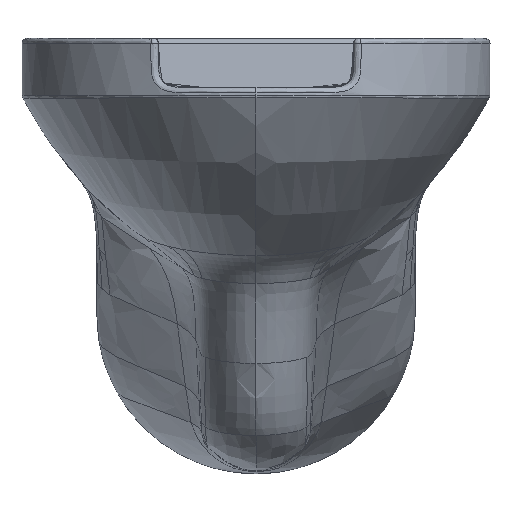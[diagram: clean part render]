
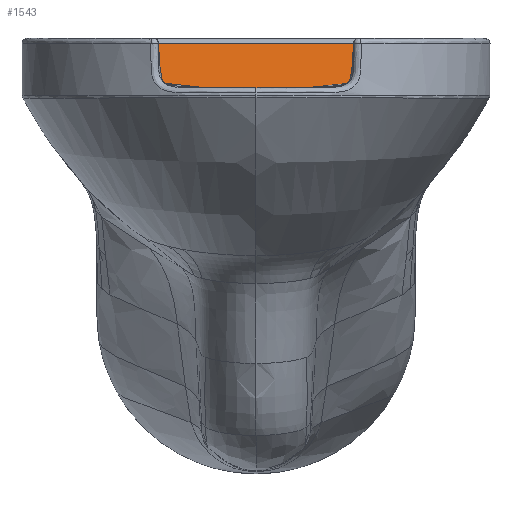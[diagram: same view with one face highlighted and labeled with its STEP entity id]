
A CAD part, front view. The second image highlights one B-rep face of the part: STEP entity #1543.
In plain terms, the highlighted planar face has unit normal (0, -0.985, 0.174).
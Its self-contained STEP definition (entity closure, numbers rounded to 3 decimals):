
#312 = PLANE ( 'NONE',  #1734 ) ;
#852 = B_SPLINE_CURVE_WITH_KNOTS ( 'NONE', 3,
 ( #33536, #32575, #32733, #32812, #32854, #32968, #33081, #33199, #33313, #33423 ),
 .UNSPECIFIED., .F., .F.,
 ( 4, 3, 3, 4 ),
 ( 0.004, 0.039, 0.063, 0.085 ),
 .UNSPECIFIED. ) ;
#1524 = CARTESIAN_POINT ( 'NONE',  ( 102.062, -331.496, 269.826 ) ) ;
#1543 = ADVANCED_FACE ( 'NONE', ( #19821 ), #312, .T. ) ;
#1733 = DIRECTION ( 'NONE',  ( 1., 0., 0. ) ) ;
#1734 = AXIS2_PLACEMENT_3D ( 'NONE', #13074, #29267, #29376 ) ;
#1864 = EDGE_CURVE ( 'NONE', #15996, #7212, #852, .T. ) ;
#4143 = CARTESIAN_POINT ( 'NONE',  ( 107.03, -329.004, 283.96 ) ) ;
#4725 = CARTESIAN_POINT ( 'NONE',  ( 123.544, -320.729, 330.891 ) ) ;
#5518 = VERTEX_POINT ( 'NONE', #4725 ) ;
#6798 = CARTESIAN_POINT ( 'NONE',  ( 112.168, -326.428, 298.569 ) ) ;
#7212 = VERTEX_POINT ( 'NONE', #24093 ) ;
#8529 = CARTESIAN_POINT ( 'NONE',  ( 97.263, -333.904, 256.168 ) ) ;
#9211 = CARTESIAN_POINT ( 'NONE',  ( 99.662, -332.7, 262.998 ) ) ;
#9447 = CARTESIAN_POINT ( 'NONE',  ( 119.75, -322.628, 320.118 ) ) ;
#9641 = CARTESIAN_POINT ( 'NONE',  ( -123.544, -320.729, 330.891 ) ) ;
#9857 = VECTOR ( 'NONE', #1733, 1000. ) ;
#10335 = LINE ( 'NONE', #33901, #9857 ) ;
#10733 = CARTESIAN_POINT ( 'NONE',  ( 0., -320.729, 330.891 ) ) ;
#12874 = B_SPLINE_CURVE_WITH_KNOTS ( 'NONE', 3,
 ( #8529, #9211, #1524, #19984, #4143, #22671, #6798, #25317, #9447, #27963 ),
 .UNSPECIFIED., .F., .F.,
 ( 4, 3, 3, 4 ),
 ( 0., 0.022, 0.046, 0.08 ),
 .UNSPECIFIED. ) ;
#13074 = CARTESIAN_POINT ( 'NONE',  ( 0., -320., 335.023 ) ) ;
#14621 = VERTEX_POINT ( 'NONE', #24779 ) ;
#15334 = ORIENTED_EDGE ( 'NONE', *, *, #18632, .T. ) ;
#15996 = VERTEX_POINT ( 'NONE', #9641 ) ;
#16303 = ORIENTED_EDGE ( 'NONE', *, *, #34133, .T. ) ;
#17854 = ORIENTED_EDGE ( 'NONE', *, *, #1864, .T. ) ;
#18361 = ORIENTED_EDGE ( 'NONE', *, *, #21798, .T. ) ;
#18632 = EDGE_CURVE ( 'NONE', #14621, #5518, #12874, .T. ) ;
#19821 = FACE_OUTER_BOUND ( 'NONE', #30292, .T. ) ;
#19984 = CARTESIAN_POINT ( 'NONE',  ( 104.462, -330.292, 276.655 ) ) ;
#21798 = EDGE_CURVE ( 'NONE', #7212, #14621, #10335, .T. ) ;
#22267 = LINE ( 'NONE', #10733, #27675 ) ;
#22671 = CARTESIAN_POINT ( 'NONE',  ( 109.599, -327.716, 291.265 ) ) ;
#24093 = CARTESIAN_POINT ( 'NONE',  ( -97.263, -333.904, 256.168 ) ) ;
#24779 = CARTESIAN_POINT ( 'NONE',  ( 97.263, -333.904, 256.168 ) ) ;
#25317 = CARTESIAN_POINT ( 'NONE',  ( 115.958, -324.528, 309.344 ) ) ;
#27675 = VECTOR ( 'NONE', #29235, 1000. ) ;
#27963 = CARTESIAN_POINT ( 'NONE',  ( 123.544, -320.729, 330.891 ) ) ;
#29235 = DIRECTION ( 'NONE',  ( -1., 0., 0. ) ) ;
#29267 = DIRECTION ( 'NONE',  ( 0., -0.985, 0.174 ) ) ;
#29376 = DIRECTION ( 'NONE',  ( 0., -0.174, -0.985 ) ) ;
#30292 = EDGE_LOOP ( 'NONE', ( #15334, #16303, #17854, #18361 ) ) ;
#32575 = CARTESIAN_POINT ( 'NONE',  ( -119.75, -322.628, 320.118 ) ) ;
#32733 = CARTESIAN_POINT ( 'NONE',  ( -115.958, -324.528, 309.344 ) ) ;
#32812 = CARTESIAN_POINT ( 'NONE',  ( -112.168, -326.428, 298.569 ) ) ;
#32854 = CARTESIAN_POINT ( 'NONE',  ( -109.599, -327.716, 291.265 ) ) ;
#32968 = CARTESIAN_POINT ( 'NONE',  ( -107.03, -329.004, 283.96 ) ) ;
#33081 = CARTESIAN_POINT ( 'NONE',  ( -104.462, -330.292, 276.655 ) ) ;
#33199 = CARTESIAN_POINT ( 'NONE',  ( -102.062, -331.496, 269.826 ) ) ;
#33313 = CARTESIAN_POINT ( 'NONE',  ( -99.662, -332.7, 262.998 ) ) ;
#33423 = CARTESIAN_POINT ( 'NONE',  ( -97.263, -333.904, 256.168 ) ) ;
#33536 = CARTESIAN_POINT ( 'NONE',  ( -123.544, -320.729, 330.891 ) ) ;
#33901 = CARTESIAN_POINT ( 'NONE',  ( -500000., -333.904, 256.168 ) ) ;
#34133 = EDGE_CURVE ( 'NONE', #5518, #15996, #22267, .T. ) ;
